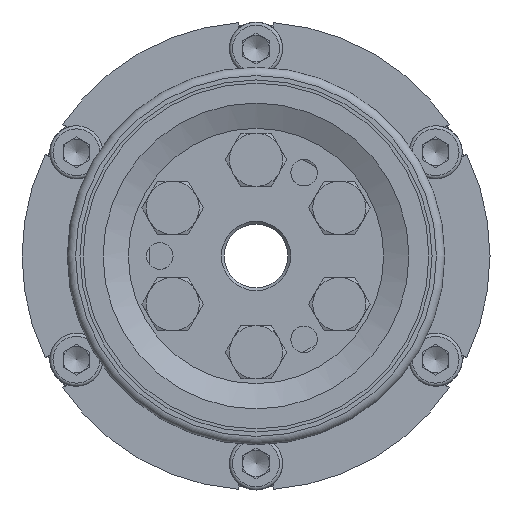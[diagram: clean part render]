
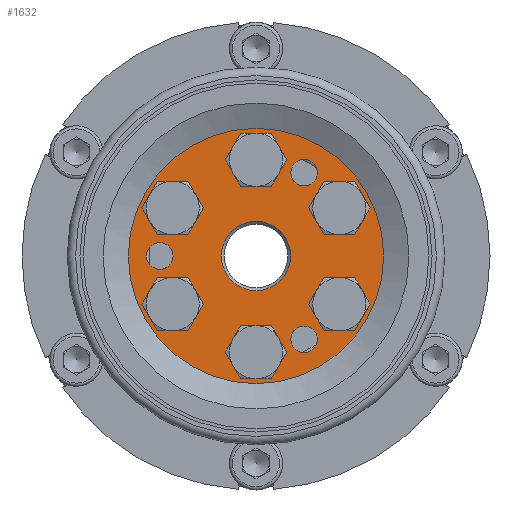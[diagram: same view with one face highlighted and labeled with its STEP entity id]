
A CAD part, left-side view. The second image highlights one B-rep face of the part: STEP entity #1632.
In plain terms, the highlighted planar face has unit normal (-1, 0, 0).
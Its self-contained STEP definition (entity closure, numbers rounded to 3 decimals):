
#1632 = ADVANCED_FACE( '', ( #3571, #3572, #3573, #3574, #3575, #3576, #3577, #3578, #3579, #3580, #3581 ), #3582, .T. );
#3571 = FACE_BOUND( '', #5621, .T. );
#3572 = FACE_OUTER_BOUND( '', #5622, .T. );
#3573 = FACE_BOUND( '', #5623, .T. );
#3574 = FACE_BOUND( '', #5624, .T. );
#3575 = FACE_BOUND( '', #5625, .T. );
#3576 = FACE_BOUND( '', #5626, .T. );
#3577 = FACE_BOUND( '', #5627, .T. );
#3578 = FACE_BOUND( '', #5628, .T. );
#3579 = FACE_BOUND( '', #5629, .T. );
#3580 = FACE_BOUND( '', #5630, .T. );
#3581 = FACE_BOUND( '', #5631, .T. );
#3582 = PLANE( '', #5632 );
#5621 = EDGE_LOOP( '', ( #10156 ) );
#5622 = EDGE_LOOP( '', ( #10157 ) );
#5623 = EDGE_LOOP( '', ( #10158 ) );
#5624 = EDGE_LOOP( '', ( #10159 ) );
#5625 = EDGE_LOOP( '', ( #10160 ) );
#5626 = EDGE_LOOP( '', ( #10161 ) );
#5627 = EDGE_LOOP( '', ( #10162 ) );
#5628 = EDGE_LOOP( '', ( #10163 ) );
#5629 = EDGE_LOOP( '', ( #10164 ) );
#5630 = EDGE_LOOP( '', ( #10165 ) );
#5631 = EDGE_LOOP( '', ( #10166 ) );
#5632 = AXIS2_PLACEMENT_3D( '', #10167, #10168, #10169 );
#10156 = ORIENTED_EDGE( '', *, *, #12006, .T. );
#10157 = ORIENTED_EDGE( '', *, *, #12577, .T. );
#10158 = ORIENTED_EDGE( '', *, *, #10969, .T. );
#10159 = ORIENTED_EDGE( '', *, *, #11870, .T. );
#10160 = ORIENTED_EDGE( '', *, *, #11812, .T. );
#10161 = ORIENTED_EDGE( '', *, *, #11223, .T. );
#10162 = ORIENTED_EDGE( '', *, *, #11644, .T. );
#10163 = ORIENTED_EDGE( '', *, *, #12524, .T. );
#10164 = ORIENTED_EDGE( '', *, *, #10940, .T. );
#10165 = ORIENTED_EDGE( '', *, *, #11952, .T. );
#10166 = ORIENTED_EDGE( '', *, *, #12263, .T. );
#10167 = CARTESIAN_POINT( '', ( -42.05, -2.75, 4.763 ) );
#10168 = DIRECTION( '', ( -1., 0., 0. ) );
#10169 = DIRECTION( '', ( 0., 1., 0. ) );
#10940 = EDGE_CURVE( '', #12918, #12918, #12919, .T. );
#10969 = EDGE_CURVE( '', #12970, #12970, #12971, .T. );
#11223 = EDGE_CURVE( '', #13397, #13397, #13398, .T. );
#11644 = EDGE_CURVE( '', #14077, #14077, #14078, .T. );
#11812 = EDGE_CURVE( '', #14320, #14320, #14321, .T. );
#11870 = EDGE_CURVE( '', #14411, #14411, #14412, .T. );
#11952 = EDGE_CURVE( '', #14534, #14534, #14535, .T. );
#12006 = EDGE_CURVE( '', #14609, #14609, #14610, .F. );
#12263 = EDGE_CURVE( '', #14942, #14942, #14943, .T. );
#12524 = EDGE_CURVE( '', #15263, #15263, #15264, .T. );
#12577 = EDGE_CURVE( '', #15323, #15323, #15324, .T. );
#12918 = VERTEX_POINT( '', #15943 );
#12919 = CIRCLE( '', #15944, 4.35 );
#12970 = VERTEX_POINT( '', #16393 );
#12971 = CIRCLE( '', #16394, 2.5 );
#13397 = VERTEX_POINT( '', #17352 );
#13398 = CIRCLE( '', #17353, 4.35 );
#14077 = VERTEX_POINT( '', #18743 );
#14078 = CIRCLE( '', #18744, 4.35 );
#14320 = VERTEX_POINT( '', #19155 );
#14321 = CIRCLE( '', #19156, 2.5 );
#14411 = VERTEX_POINT( '', #19354 );
#14412 = CIRCLE( '', #19355, 2.5 );
#14534 = VERTEX_POINT( '', #19637 );
#14535 = CIRCLE( '', #19638, 4.35 );
#14609 = VERTEX_POINT( '', #19819 );
#14610 = CIRCLE( '', #19820, 6.5 );
#14942 = VERTEX_POINT( '', #20437 );
#14943 = CIRCLE( '', #20438, 4.35 );
#15263 = VERTEX_POINT( '', #21050 );
#15264 = CIRCLE( '', #21051, 4.35 );
#15323 = VERTEX_POINT( '', #21148 );
#15324 = CIRCLE( '', #21149, 24. );
#15943 = CARTESIAN_POINT( '', ( -42.05, -15.675, -4.7 ) );
#15944 = AXIS2_PLACEMENT_3D( '', #21448, #21449, #21450 );
#16393 = CARTESIAN_POINT( '', ( -42.05, -11.215, -14.425 ) );
#16394 = AXIS2_PLACEMENT_3D( '', #21482, #21483, #21484 );
#17352 = CARTESIAN_POINT( '', ( -42.05, 0., 22.45 ) );
#17353 = AXIS2_PLACEMENT_3D( '', #21803, #21804, #21805 );
#18743 = CARTESIAN_POINT( '', ( -42.05, 15.675, 13.4 ) );
#18744 = AXIS2_PLACEMENT_3D( '', #22315, #22316, #22317 );
#19155 = CARTESIAN_POINT( '', ( -42.05, 18.1, -2.5 ) );
#19156 = AXIS2_PLACEMENT_3D( '', #22535, #22536, #22537 );
#19354 = CARTESIAN_POINT( '', ( -42.05, -6.885, 16.925 ) );
#19355 = AXIS2_PLACEMENT_3D( '', #22610, #22611, #22612 );
#19637 = CARTESIAN_POINT( '', ( -42.05, 0., -13.75 ) );
#19638 = AXIS2_PLACEMENT_3D( '', #22703, #22704, #22705 );
#19819 = CARTESIAN_POINT( '', ( -42.05, 0., 6.5 ) );
#19820 = AXIS2_PLACEMENT_3D( '', #22784, #22785, #22786 );
#20437 = CARTESIAN_POINT( '', ( -42.05, 15.675, -4.7 ) );
#20438 = AXIS2_PLACEMENT_3D( '', #23074, #23075, #23076 );
#21050 = CARTESIAN_POINT( '', ( -42.05, -15.675, 13.4 ) );
#21051 = AXIS2_PLACEMENT_3D( '', #23325, #23326, #23327 );
#21148 = CARTESIAN_POINT( '', ( -42.05, -12., 20.785 ) );
#21149 = AXIS2_PLACEMENT_3D( '', #23368, #23369, #23370 );
#21448 = CARTESIAN_POINT( '', ( -42.05, -15.675, -9.05 ) );
#21449 = DIRECTION( '', ( 1., 0., 0. ) );
#21450 = DIRECTION( '', ( 0., 0., 1. ) );
#21482 = CARTESIAN_POINT( '', ( -42.05, -9.05, -15.675 ) );
#21483 = DIRECTION( '', ( 1., 0., 0. ) );
#21484 = DIRECTION( '', ( 0., -0.866, 0.5 ) );
#21803 = CARTESIAN_POINT( '', ( -42.05, 0., 18.1 ) );
#21804 = DIRECTION( '', ( 1., 0., 0. ) );
#21805 = DIRECTION( '', ( 0., 0., 1. ) );
#22315 = CARTESIAN_POINT( '', ( -42.05, 15.675, 9.05 ) );
#22316 = DIRECTION( '', ( 1., 0., 0. ) );
#22317 = DIRECTION( '', ( 0., 0., 1. ) );
#22535 = CARTESIAN_POINT( '', ( -42.05, 18.1, 0. ) );
#22536 = DIRECTION( '', ( 1., 0., 0. ) );
#22537 = DIRECTION( '', ( 0., 0., -1. ) );
#22610 = CARTESIAN_POINT( '', ( -42.05, -9.05, 15.675 ) );
#22611 = DIRECTION( '', ( 1., 0., 0. ) );
#22612 = DIRECTION( '', ( 0., 0.866, 0.5 ) );
#22703 = CARTESIAN_POINT( '', ( -42.05, 0., -18.1 ) );
#22704 = DIRECTION( '', ( 1., 0., 0. ) );
#22705 = DIRECTION( '', ( 0., 0., 1. ) );
#22784 = CARTESIAN_POINT( '', ( -42.05, 0., 0. ) );
#22785 = DIRECTION( '', ( -1., 0., 0. ) );
#22786 = DIRECTION( '', ( 0., 0., 1. ) );
#23074 = CARTESIAN_POINT( '', ( -42.05, 15.675, -9.05 ) );
#23075 = DIRECTION( '', ( 1., 0., 0. ) );
#23076 = DIRECTION( '', ( 0., 0., 1. ) );
#23325 = CARTESIAN_POINT( '', ( -42.05, -15.675, 9.05 ) );
#23326 = DIRECTION( '', ( 1., 0., 0. ) );
#23327 = DIRECTION( '', ( 0., 0., 1. ) );
#23368 = CARTESIAN_POINT( '', ( -42.05, 0., 0. ) );
#23369 = DIRECTION( '', ( -1., 0., 0. ) );
#23370 = DIRECTION( '', ( 0., -0.5, 0.866 ) );
